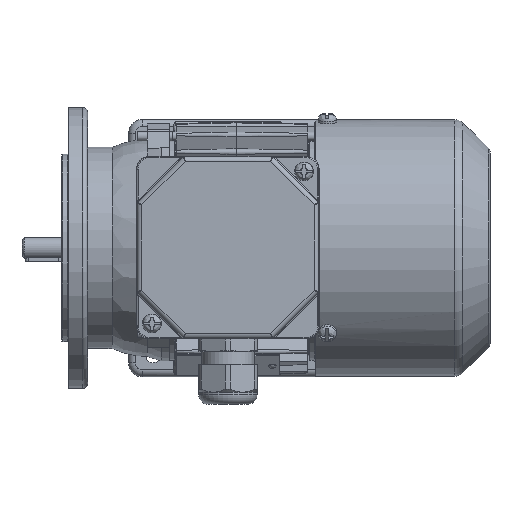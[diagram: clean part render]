
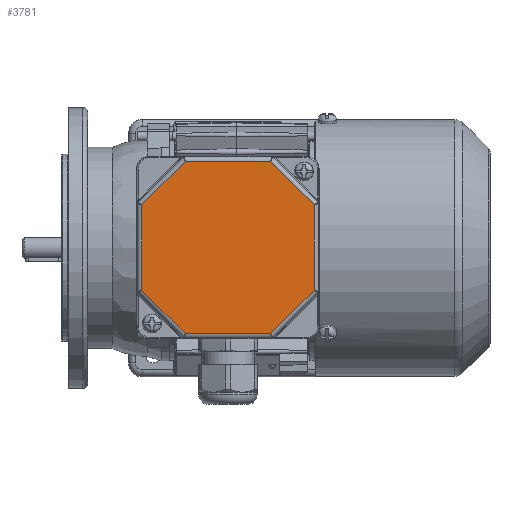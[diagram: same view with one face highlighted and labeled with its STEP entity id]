
A CAD part, top view. The second image highlights one B-rep face of the part: STEP entity #3781.
In plain terms, the highlighted planar face has unit normal (0, 0, 1).
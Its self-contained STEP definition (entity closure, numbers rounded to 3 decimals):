
#3781 = ADVANCED_FACE( '', ( #8343 ), #8344, .T. );
#8343 = FACE_OUTER_BOUND( '', #18626, .T. );
#8344 = PLANE( '', #18627 );
#18626 = EDGE_LOOP( '', ( #33319, #33320, #33321, #33322, #33323, #33324, #33325, #33326 ) );
#18627 = AXIS2_PLACEMENT_3D( '', #33327, #33328, #33329 );
#33319 = ORIENTED_EDGE( '', *, *, #46497, .T. );
#33320 = ORIENTED_EDGE( '', *, *, #46498, .T. );
#33321 = ORIENTED_EDGE( '', *, *, #44378, .T. );
#33322 = ORIENTED_EDGE( '', *, *, #46499, .T. );
#33323 = ORIENTED_EDGE( '', *, *, #43388, .T. );
#33324 = ORIENTED_EDGE( '', *, *, #46358, .T. );
#33325 = ORIENTED_EDGE( '', *, *, #46500, .T. );
#33326 = ORIENTED_EDGE( '', *, *, #46501, .T. );
#33327 = CARTESIAN_POINT( '', ( -39., 39., 12. ) );
#33328 = DIRECTION( '', ( 0., 0., 1. ) );
#33329 = DIRECTION( '', ( 1., 0., 0. ) );
#43388 = EDGE_CURVE( '', #49989, #49990, #49991, .F. );
#44378 = EDGE_CURVE( '', #51715, #51716, #51717, .F. );
#46358 = EDGE_CURVE( '', #49990, #54870, #54871, .T. );
#46497 = EDGE_CURVE( '', #50061, #55070, #55071, .F. );
#46498 = EDGE_CURVE( '', #55070, #51715, #55072, .T. );
#46499 = EDGE_CURVE( '', #51716, #49989, #55073, .T. );
#46500 = EDGE_CURVE( '', #54870, #55074, #55075, .F. );
#46501 = EDGE_CURVE( '', #55074, #50061, #55076, .T. );
#49989 = VERTEX_POINT( '', #59942 );
#49990 = VERTEX_POINT( '', #59943 );
#49991 = LINE( '', #59944, #59945 );
#50061 = VERTEX_POINT( '', #60132 );
#51715 = VERTEX_POINT( '', #63683 );
#51716 = VERTEX_POINT( '', #63684 );
#51717 = LINE( '', #63685, #63686 );
#54870 = VERTEX_POINT( '', #70386 );
#54871 = LINE( '', #70387, #70388 );
#55070 = VERTEX_POINT( '', #70864 );
#55071 = LINE( '', #70865, #70866 );
#55072 = LINE( '', #70867, #70868 );
#55073 = LINE( '', #70869, #70870 );
#55074 = VERTEX_POINT( '', #70871 );
#55075 = LINE( '', #70872, #70873 );
#55076 = LINE( '', #70874, #70875 );
#59942 = CARTESIAN_POINT( '', ( -36.825, 18.255, 12. ) );
#59943 = CARTESIAN_POINT( '', ( -36.825, -18.255, 12. ) );
#59944 = CARTESIAN_POINT( '', ( -36.825, -19.069, 12. ) );
#59945 = VECTOR( '', #79562, 1000. );
#60132 = CARTESIAN_POINT( '', ( 36.825, -18.255, 12. ) );
#63683 = CARTESIAN_POINT( '', ( 18.255, 36.825, 12. ) );
#63684 = CARTESIAN_POINT( '', ( -18.255, 36.825, 12. ) );
#63685 = CARTESIAN_POINT( '', ( -19.069, 36.825, 12. ) );
#63686 = VECTOR( '', #80780, 1000. );
#70386 = CARTESIAN_POINT( '', ( -18.255, -36.825, 12. ) );
#70387 = CARTESIAN_POINT( '', ( -17.679, -37.401, 12. ) );
#70388 = VECTOR( '', #83417, 1000. );
#70864 = CARTESIAN_POINT( '', ( 36.825, 18.255, 12. ) );
#70865 = CARTESIAN_POINT( '', ( 36.825, 19.069, 12. ) );
#70866 = VECTOR( '', #83560, 1000. );
#70867 = CARTESIAN_POINT( '', ( 17.679, 37.401, 12. ) );
#70868 = VECTOR( '', #83561, 1000. );
#70869 = CARTESIAN_POINT( '', ( -37.401, 17.679, 12. ) );
#70870 = VECTOR( '', #83562, 1000. );
#70871 = CARTESIAN_POINT( '', ( 18.255, -36.825, 12. ) );
#70872 = CARTESIAN_POINT( '', ( 19.069, -36.825, 12. ) );
#70873 = VECTOR( '', #83563, 1000. );
#70874 = CARTESIAN_POINT( '', ( 37.401, -17.679, 12. ) );
#70875 = VECTOR( '', #83564, 1000. );
#79562 = DIRECTION( '', ( 0., 1., 0. ) );
#80780 = DIRECTION( '', ( 1., 0., 0. ) );
#83417 = DIRECTION( '', ( 0.707, -0.707, 0. ) );
#83560 = DIRECTION( '', ( 0., -1., 0. ) );
#83561 = DIRECTION( '', ( -0.707, 0.707, 0. ) );
#83562 = DIRECTION( '', ( -0.707, -0.707, 0. ) );
#83563 = DIRECTION( '', ( -1., 0., 0. ) );
#83564 = DIRECTION( '', ( 0.707, 0.707, 0. ) );
